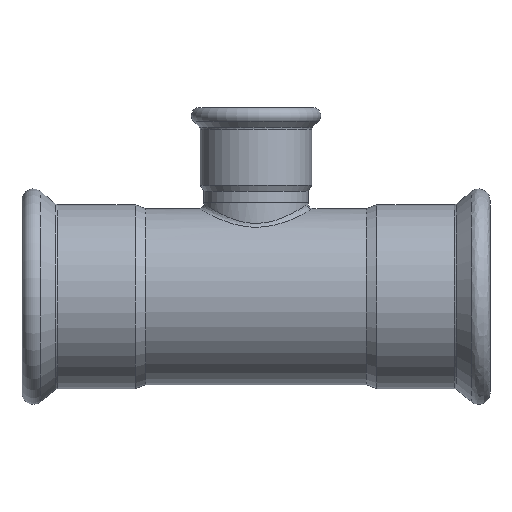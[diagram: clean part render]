
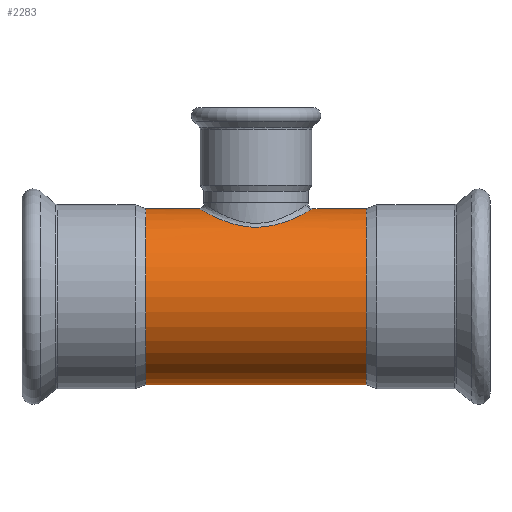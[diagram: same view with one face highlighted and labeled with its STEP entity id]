
A CAD part, front view. The second image highlights one B-rep face of the part: STEP entity #2283.
In plain terms, the highlighted cylindrical face has radius 54 mm (diameter 108 mm), a full revolution.
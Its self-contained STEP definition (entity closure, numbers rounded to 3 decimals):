
#2084=CARTESIAN_POINT('',(0.0,33.158,42.621));
#2085=VERTEX_POINT('',#2084);
#2163=CARTESIAN_POINT('',(0.,33.158,42.621));
#2164=CARTESIAN_POINT('',(-1.342,33.158,42.621));
#2165=CARTESIAN_POINT('',(-4.029,33.01,42.736));
#2166=CARTESIAN_POINT('',(-7.972,32.36,43.234));
#2167=CARTESIAN_POINT('',(-11.788,31.295,44.016));
#2168=CARTESIAN_POINT('',(-15.374,29.863,45.005));
#2169=CARTESIAN_POINT('',(-18.763,28.071,46.149));
#2170=CARTESIAN_POINT('',(-21.905,25.946,47.382));
#2171=CARTESIAN_POINT('',(-24.289,23.927,48.426));
#2172=CARTESIAN_POINT('',(-26.039,22.181,49.242));
#2173=CARTESIAN_POINT('',(-27.976,20.025,50.178));
#2174=CARTESIAN_POINT('',(-30.309,16.824,51.377));
#2175=CARTESIAN_POINT('',(-32.225,13.126,52.423));
#2176=CARTESIAN_POINT('',(-33.412,9.982,53.088));
#2177=CARTESIAN_POINT('',(-34.348,6.748,53.621));
#2178=CARTESIAN_POINT('',(-35.035,2.553,54.02));
#2179=CARTESIAN_POINT('',(-35.034,-1.703,54.02));
#2180=CARTESIAN_POINT('',(-34.623,-5.071,53.781));
#2181=CARTESIAN_POINT('',(-33.945,-8.383,53.391));
#2182=CARTESIAN_POINT('',(-32.871,-11.597,52.781));
#2183=CARTESIAN_POINT('',(-31.454,-14.612,52.002));
#2184=CARTESIAN_POINT('',(-29.807,-17.516,51.119));
#2185=CARTESIAN_POINT('',(-27.836,-20.215,50.106));
#2186=CARTESIAN_POINT('',(-25.593,-22.661,49.028));
#2187=CARTESIAN_POINT('',(-23.193,-24.923,47.932));
#2188=CARTESIAN_POINT('',(-19.853,-27.452,46.538));
#2189=CARTESIAN_POINT('',(-16.142,-29.5,45.244));
#2190=CARTESIAN_POINT('',(-12.984,-30.825,44.342));
#2191=CARTESIAN_POINT('',(-9.679,-31.941,43.548));
#2192=CARTESIAN_POINT('',(-5.36,-32.897,42.825));
#2193=CARTESIAN_POINT('',(0.01,-33.289,42.518));
#2194=CARTESIAN_POINT('',(4.487,-32.96,42.777));
#2195=CARTESIAN_POINT('',(7.97,-32.32,43.262));
#2196=CARTESIAN_POINT('',(11.383,-31.433,43.916));
#2197=CARTESIAN_POINT('',(15.409,-29.905,44.988));
#2198=CARTESIAN_POINT('',(19.883,-27.434,46.549));
#2199=CARTESIAN_POINT('',(23.224,-24.898,47.946));
#2200=CARTESIAN_POINT('',(25.622,-22.632,49.041));
#2201=CARTESIAN_POINT('',(27.859,-20.186,50.118));
#2202=CARTESIAN_POINT('',(29.986,-17.265,51.211));
#2203=CARTESIAN_POINT('',(31.855,-13.869,52.219));
#2204=CARTESIAN_POINT('',(33.162,-10.779,52.946));
#2205=CARTESIAN_POINT('',(34.304,-7.02,53.596));
#2206=CARTESIAN_POINT('',(35.036,-2.546,54.021));
#2207=CARTESIAN_POINT('',(35.033,2.564,54.019));
#2208=CARTESIAN_POINT('',(34.211,7.59,53.542));
#2209=CARTESIAN_POINT('',(32.87,11.601,52.781));
#2210=CARTESIAN_POINT('',(31.451,14.617,52.001));
#2211=CARTESIAN_POINT('',(29.801,17.525,51.116));
#2212=CARTESIAN_POINT('',(27.954,20.053,50.167));
#2213=CARTESIAN_POINT('',(26.013,22.208,49.229));
#2214=CARTESIAN_POINT('',(24.262,23.952,48.414));
#2215=CARTESIAN_POINT('',(21.876,25.968,47.37));
#2216=CARTESIAN_POINT('',(19.264,27.73,46.347));
#2217=CARTESIAN_POINT('',(17.053,28.975,45.572));
#2218=CARTESIAN_POINT('',(14.774,30.103,44.839));
#2219=CARTESIAN_POINT('',(11.771,31.3,44.012));
#2220=CARTESIAN_POINT('',(7.978,32.358,43.235));
#2221=CARTESIAN_POINT('',(4.028,33.011,42.736));
#2222=CARTESIAN_POINT('',(1.342,33.158,42.621));
#2223=CARTESIAN_POINT('',(0.,33.158,42.621));
#2224=CARTESIAN_POINT('',(0.,33.158,42.621));
#2225=CARTESIAN_POINT('',(0.,33.158,42.621));
#2226=CARTESIAN_POINT('',(0.,33.158,42.621));
#2227=B_SPLINE_CURVE_WITH_KNOTS('',3,(#2163,#2164,#2165,#2166,#2167,#2168,#2169,#2170,#2171,#2172,#2173,#2174,#2175,#2176,#2177,#2178,#2179,#2180,#2181,#2182,#2183,#2184,#2185,#2186,#2187,#2188,#2189,#2190,#2191,#2192,#2193,#2194,#2195,#2196,#2197,#2198,#2199,#2200,#2201,#2202,#2203,#2204,#2205,#2206,#2207,#2208,#2209,#2210,#2211,#2212,#2213,#2214,#2215,#2216,#2217,#2218,#2219,#2220,#2221,#2222,#2223,#2224,#2225,#2226),.UNSPECIFIED.,.T.,.U.,(4,1,1,1,1,1,1,1,1,1,1,1,1,1,1,1,1,1,1,1,1,1,1,1,1,1,1,1,1,1,1,1,1,1,1,1,1,1,1,1,1,1,1,1,1,1,1,1,1,1,1,1,1,1,1,1,1,1,3,4),(-19.878,-19.523,-19.168,-18.813,-18.458,-18.103,-17.748,-17.393,-17.216,-17.038,-16.565,-16.092,-15.855,-15.619,-15.145,-14.672,-14.435,-14.199,-13.725,-13.489,-13.252,-12.779,-12.542,-12.306,-11.832,-11.359,-11.122,-10.886,-10.412,-9.939,-9.466,-9.229,-8.992,-8.519,-8.046,-7.573,-7.336,-7.099,-6.626,-6.311,-5.995,-5.679,-5.206,-4.733,-4.26,-3.786,-3.55,-3.313,-2.84,-2.662,-2.485,-2.13,-1.775,-1.597,-1.42,-1.065,-0.71,-0.355,0.0,0.),.UNSPECIFIED.);
#2228=EDGE_CURVE('',#2085,#2085,#2227,.T.);
#2253=CARTESIAN_POINT('',(-33.845,0.,0.0));
#2254=DIRECTION('',(1.0,0.,0.0));
#2255=DIRECTION('',(0.0,1.0,0.0));
#2256=AXIS2_PLACEMENT_3D('',#2253,#2254,#2255);
#2257=CYLINDRICAL_SURFACE('',#2256,54.0);
#2258=CARTESIAN_POINT('',(-67.691,54.,0.0));
#2259=VERTEX_POINT('',#2258);
#2260=CARTESIAN_POINT('',(-67.691,0.,0.0));
#2261=DIRECTION('',(1.0,0.0,0.0));
#2262=DIRECTION('',(0.0,1.0,0.0));
#2263=AXIS2_PLACEMENT_3D('',#2260,#2261,#2262);
#2264=CIRCLE('',#2263,54.0);
#2265=EDGE_CURVE('',#2259,#2259,#2264,.T.);
#2266=ORIENTED_EDGE('',*,*,#2265,.T.);
#2267=EDGE_LOOP('',(#2266));
#2268=FACE_OUTER_BOUND('',#2267,.T.);
#2269=CARTESIAN_POINT('',(67.691,54.,0.0));
#2270=VERTEX_POINT('',#2269);
#2271=CARTESIAN_POINT('',(67.691,0.,0.0));
#2272=DIRECTION('',(1.0,0.0,0.0));
#2273=DIRECTION('',(0.0,1.0,0.0));
#2274=AXIS2_PLACEMENT_3D('',#2271,#2272,#2273);
#2275=CIRCLE('',#2274,54.0);
#2276=EDGE_CURVE('',#2270,#2270,#2275,.T.);
#2277=ORIENTED_EDGE('',*,*,#2276,.F.);
#2278=EDGE_LOOP('',(#2277));
#2279=FACE_BOUND('',#2278,.T.);
#2280=ORIENTED_EDGE('',*,*,#2228,.F.);
#2281=EDGE_LOOP('',(#2280));
#2282=FACE_BOUND('',#2281,.T.);
#2283=ADVANCED_FACE('',(#2268,#2279,#2282),#2257,.T.);
